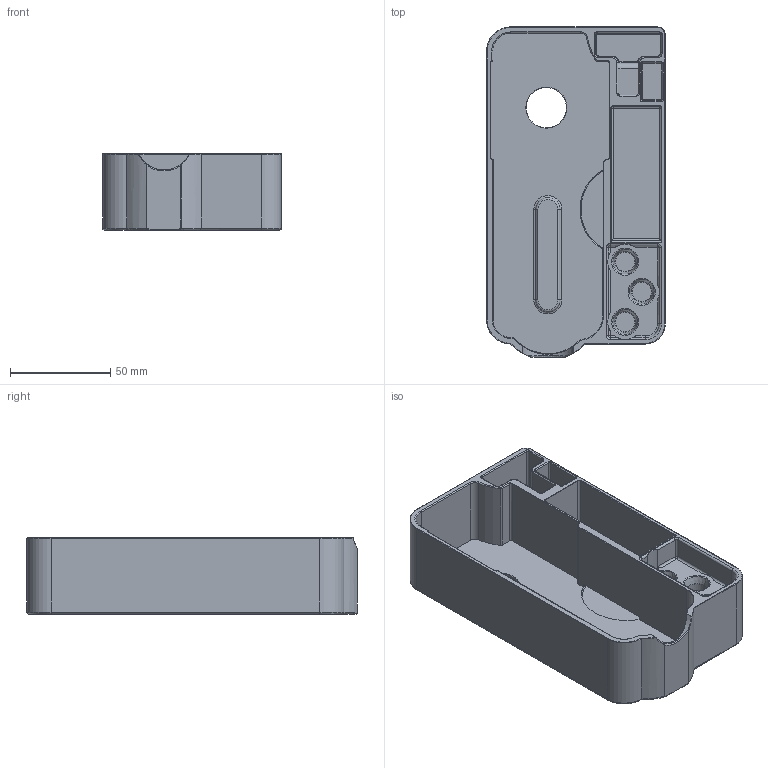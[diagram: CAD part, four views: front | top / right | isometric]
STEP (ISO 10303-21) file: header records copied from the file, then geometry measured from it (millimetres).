
FILE_DESCRIPTION (( 'STEP AP214' ), '1' );
FILE_NAME ('peakbox.STEP', '2026-02-25T14:41:41', ( '' ), ( '' ), 'SwSTEP 2.0', 'SolidWorks 2023', '' );
FILE_SCHEMA (( 'AUTOMOTIVE_DESIGN' ));
Length unit declared in the file: millimetre
Products named in the file (1): peakbox
Bounding box: 89 x 164.5 x 38 mm (x, y, z)
Volume: 146256.9 mm3; surface area: 75480.2 mm2
Topology: 1 solids, 1 shells, 359 faces, 838 edges, 464 vertices
Faces by surface type: cylinder 161, torus 89, plane 61, sphere 20, bspline 18, cone 10
Entity records: 10900 total; most frequent: CARTESIAN_POINT 2796, DIRECTION 1845, ORIENTED_EDGE 1630, EDGE_CURVE 815, AXIS2_PLACEMENT_3D 760, VERTEX_POINT 464, CIRCLE 418, EDGE_LOOP 369
